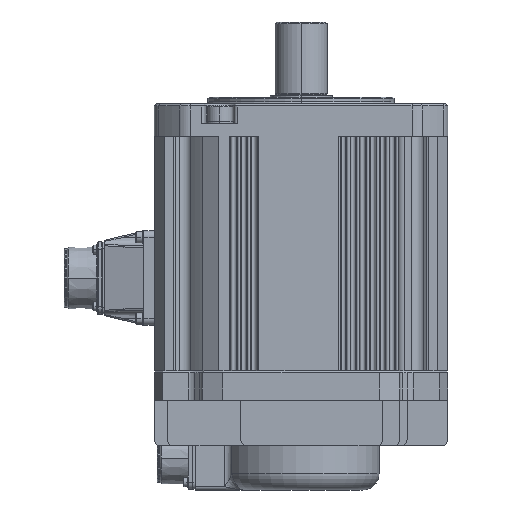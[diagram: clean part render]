
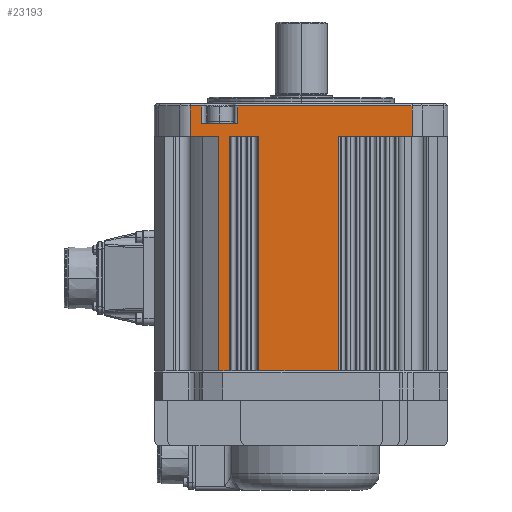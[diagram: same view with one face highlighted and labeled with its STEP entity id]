
A CAD part, left-side view. The second image highlights one B-rep face of the part: STEP entity #23193.
In plain terms, the highlighted planar face has unit normal (-1, 0, 0).
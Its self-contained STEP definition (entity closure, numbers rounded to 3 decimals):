
#2072=DIRECTION('',(0.,-1.,0.));
#2073=VECTOR('',#2072,17.479);
#2074=CARTESIAN_POINT('',(-90.,68.007,28.));
#2075=LINE('',#2074,#2073);
#2090=DIRECTION('',(0.,0.,-1.));
#2091=VECTOR('',#2090,144.);
#2092=CARTESIAN_POINT('',(-90.,50.528,28.));
#2093=LINE('',#2092,#2091);
#2127=DIRECTION('',(0.,1.,0.));
#2128=VECTOR('',#2127,6.528);
#2129=CARTESIAN_POINT('',(-90.,44.,-116.));
#2130=LINE('',#2129,#2128);
#2131=DIRECTION('',(0.,1.,0.));
#2132=VECTOR('',#2131,7.007);
#2133=CARTESIAN_POINT('',(-90.,61.,46.5));
#2134=LINE('',#2133,#2132);
#2135=DIRECTION('',(0.,0.,1.));
#2136=VECTOR('',#2135,11.);
#2137=CARTESIAN_POINT('',(-90.,61.,35.5));
#2138=LINE('',#2137,#2136);
#2139=DIRECTION('',(0.,0.,1.));
#2140=VECTOR('',#2139,11.);
#2141=CARTESIAN_POINT('',(-90.,39.,35.5));
#2142=LINE('',#2141,#2140);
#2143=DIRECTION('',(0.,1.,0.));
#2144=VECTOR('',#2143,107.007);
#2145=CARTESIAN_POINT('',(-90.,-68.007,
46.5));
#2146=LINE('',#2145,#2144);
#2147=DIRECTION('',(0.,1.,0.));
#2148=VECTOR('',#2147,49.);
#2149=CARTESIAN_POINT('',(-90.,-23.,-116.));
#2150=LINE('',#2149,#2148);
#2174=DIRECTION('',(0.,-1.,0.));
#2175=VECTOR('',#2174,6.);
#2176=CARTESIAN_POINT('',(-90.,44.,28.));
#2177=LINE('',#2176,#2175);
#2209=DIRECTION('',(0.,-1.,0.));
#2210=VECTOR('',#2209,6.);
#2211=CARTESIAN_POINT('',(-90.,38.,28.));
#2212=LINE('',#2211,#2210);
#2244=DIRECTION('',(0.,-1.,0.));
#2245=VECTOR('',#2244,6.);
#2246=CARTESIAN_POINT('',(-90.,32.,28.));
#2247=LINE('',#2246,#2245);
#2248=DIRECTION('',(0.,0.,-1.));
#2249=VECTOR('',#2248,144.);
#2250=CARTESIAN_POINT('',(-90.,26.,28.));
#2251=LINE('',#2250,#2249);
#2311=DIRECTION('',(0.,0.,1.));
#2312=VECTOR('',#2311,144.);
#2313=CARTESIAN_POINT('',(-90.,44.,-116.));
#2314=LINE('',#2313,#2312);
#2438=DIRECTION('',(0.,0.,1.));
#2439=VECTOR('',#2438,144.);
#2440=CARTESIAN_POINT('',(-90.,-23.,-116.));
#2441=LINE('',#2440,#2439);
#2465=DIRECTION('',(0.,-1.,0.));
#2466=VECTOR('',#2465,6.);
#2467=CARTESIAN_POINT('',(-90.,-23.,28.));
#2468=LINE('',#2467,#2466);
#2500=DIRECTION('',(0.,-1.,0.));
#2501=VECTOR('',#2500,6.);
#2502=CARTESIAN_POINT('',(-90.,-29.,28.));
#2503=LINE('',#2502,#2501);
#2535=DIRECTION('',(0.,-1.,0.));
#2536=VECTOR('',#2535,6.);
#2537=CARTESIAN_POINT('',(-90.,-35.,28.));
#2538=LINE('',#2537,#2536);
#2570=DIRECTION('',(0.,-1.,0.));
#2571=VECTOR('',#2570,6.);
#2572=CARTESIAN_POINT('',(-90.,-41.,28.));
#2573=LINE('',#2572,#2571);
#2659=DIRECTION('',(0.,-1.,0.));
#2660=VECTOR('',#2659,21.007);
#2661=CARTESIAN_POINT('',(-90.,-47.,28.));
#2662=LINE('',#2661,#2660);
#12743=DIRECTION('',(0.,0.,-1.));
#12744=VECTOR('',#12743,18.5);
#12745=CARTESIAN_POINT('',(-90.,-68.007,
46.5));
#12746=LINE('',#12745,#12744);
#12791=DIRECTION('',(0.,1.,0.));
#12792=VECTOR('',#12791,22.);
#12793=CARTESIAN_POINT('',(-90.,39.,35.5));
#12794=LINE('',#12793,#12792);
#12904=DIRECTION('',(0.,0.,1.));
#12905=VECTOR('',#12904,18.5);
#12906=CARTESIAN_POINT('',(-90.,68.007,28.));
#12907=LINE('',#12906,#12905);
#16149=CARTESIAN_POINT('',(-90.,-68.007,28.));
#16151=VERTEX_POINT('',#16149);
#16238=CARTESIAN_POINT('',(-90.,68.007,28.));
#16239=VERTEX_POINT('',#16238);
#16289=CARTESIAN_POINT('',(-90.,-68.007,46.5));
#16291=VERTEX_POINT('',#16289);
#16316=CARTESIAN_POINT('',(-90.,68.007,46.5));
#16317=VERTEX_POINT('',#16316);
#16368=CARTESIAN_POINT('',(-90.,39.,35.5));
#16369=CARTESIAN_POINT('',(-90.,39.,46.5));
#16370=VERTEX_POINT('',#16368);
#16371=VERTEX_POINT('',#16369);
#16372=CARTESIAN_POINT('',(-90.,61.,35.5));
#16373=CARTESIAN_POINT('',(-90.,61.,46.5));
#16374=VERTEX_POINT('',#16372);
#16375=VERTEX_POINT('',#16373);
#16804=CARTESIAN_POINT('',(-90.,44.,-116.));
#16805=CARTESIAN_POINT('',(-90.,50.528,-116.));
#16806=VERTEX_POINT('',#16804);
#16807=VERTEX_POINT('',#16805);
#16823=CARTESIAN_POINT('',(-90.,26.,-116.));
#16825=VERTEX_POINT('',#16823);
#16826=CARTESIAN_POINT('',(-90.,-23.,-116.));
#16827=VERTEX_POINT('',#16826);
#17143=CARTESIAN_POINT('',(-90.,-47.,28.));
#17145=VERTEX_POINT('',#17143);
#17153=CARTESIAN_POINT('',(-90.,-41.,28.));
#17155=VERTEX_POINT('',#17153);
#17163=CARTESIAN_POINT('',(-90.,-35.,28.));
#17165=VERTEX_POINT('',#17163);
#17173=CARTESIAN_POINT('',(-90.,-29.,28.));
#17175=VERTEX_POINT('',#17173);
#17182=CARTESIAN_POINT('',(-90.,-23.,28.));
#17183=VERTEX_POINT('',#17182);
#17185=CARTESIAN_POINT('',(-90.,26.,28.));
#17187=VERTEX_POINT('',#17185);
#17195=CARTESIAN_POINT('',(-90.,32.,28.));
#17197=VERTEX_POINT('',#17195);
#17205=CARTESIAN_POINT('',(-90.,38.,28.));
#17207=VERTEX_POINT('',#17205);
#17214=CARTESIAN_POINT('',(-90.,44.,28.));
#17215=VERTEX_POINT('',#17214);
#17216=CARTESIAN_POINT('',(-90.,50.528,28.));
#17218=VERTEX_POINT('',#17216);
#23145=CARTESIAN_POINT('',(-90.,71.589,0.));
#23146=DIRECTION('',(-1.,0.,0.));
#23147=DIRECTION('',(0.,-1.,0.));
#23148=AXIS2_PLACEMENT_3D('',#23145,#23146,#23147);
#23149=PLANE('',#23148);
#23151=ORIENTED_EDGE('',*,*,#23150,.F.);
#23153=ORIENTED_EDGE('',*,*,#23152,.F.);
#23154=ORIENTED_EDGE('',*,*,#23134,.T.);
#23155=ORIENTED_EDGE('',*,*,#23090,.F.);
#23156=ORIENTED_EDGE('',*,*,#23067,.F.);
#23158=ORIENTED_EDGE('',*,*,#23157,.T.);
#23160=ORIENTED_EDGE('',*,*,#23159,.F.);
#23162=ORIENTED_EDGE('',*,*,#23161,.F.);
#23164=ORIENTED_EDGE('',*,*,#23163,.F.);
#23166=ORIENTED_EDGE('',*,*,#23165,.T.);
#23168=ORIENTED_EDGE('',*,*,#23167,.F.);
#23170=ORIENTED_EDGE('',*,*,#23169,.T.);
#23172=ORIENTED_EDGE('',*,*,#23171,.F.);
#23174=ORIENTED_EDGE('',*,*,#23173,.F.);
#23176=ORIENTED_EDGE('',*,*,#23175,.F.);
#23178=ORIENTED_EDGE('',*,*,#23177,.F.);
#23180=ORIENTED_EDGE('',*,*,#23179,.F.);
#23182=ORIENTED_EDGE('',*,*,#23181,.F.);
#23184=ORIENTED_EDGE('',*,*,#23183,.T.);
#23186=ORIENTED_EDGE('',*,*,#23185,.F.);
#23188=ORIENTED_EDGE('',*,*,#23187,.F.);
#23190=ORIENTED_EDGE('',*,*,#23189,.F.);
#23191=EDGE_LOOP('',(#23151,#23153,#23154,#23155,#23156,#23158,#23160,#23162,
#23164,#23166,#23168,#23170,#23172,#23174,#23176,#23178,#23180,#23182,#23184,
#23186,#23188,#23190));
#23192=FACE_OUTER_BOUND('',#23191,.F.);
#23067=EDGE_CURVE('',#16239,#17218,#2075,.T.);
#23090=EDGE_CURVE('',#17218,#16807,#2093,.T.);
#23134=EDGE_CURVE('',#16806,#16807,#2130,.T.);
#23150=EDGE_CURVE('',#17215,#17207,#2177,.T.);
#23152=EDGE_CURVE('',#16806,#17215,#2314,.T.);
#23157=EDGE_CURVE('',#16239,#16317,#12907,.T.);
#23159=EDGE_CURVE('',#16375,#16317,#2134,.T.);
#23161=EDGE_CURVE('',#16374,#16375,#2138,.T.);
#23163=EDGE_CURVE('',#16370,#16374,#12794,.T.);
#23165=EDGE_CURVE('',#16370,#16371,#2142,.T.);
#23167=EDGE_CURVE('',#16291,#16371,#2146,.T.);
#23169=EDGE_CURVE('',#16291,#16151,#12746,.T.);
#23171=EDGE_CURVE('',#17145,#16151,#2662,.T.);
#23173=EDGE_CURVE('',#17155,#17145,#2573,.T.);
#23175=EDGE_CURVE('',#17165,#17155,#2538,.T.);
#23177=EDGE_CURVE('',#17175,#17165,#2503,.T.);
#23179=EDGE_CURVE('',#17183,#17175,#2468,.T.);
#23181=EDGE_CURVE('',#16827,#17183,#2441,.T.);
#23183=EDGE_CURVE('',#16827,#16825,#2150,.T.);
#23185=EDGE_CURVE('',#17187,#16825,#2251,.T.);
#23187=EDGE_CURVE('',#17197,#17187,#2247,.T.);
#23189=EDGE_CURVE('',#17207,#17197,#2212,.T.);
#23193=ADVANCED_FACE('',(#23192),#23149,.T.);
